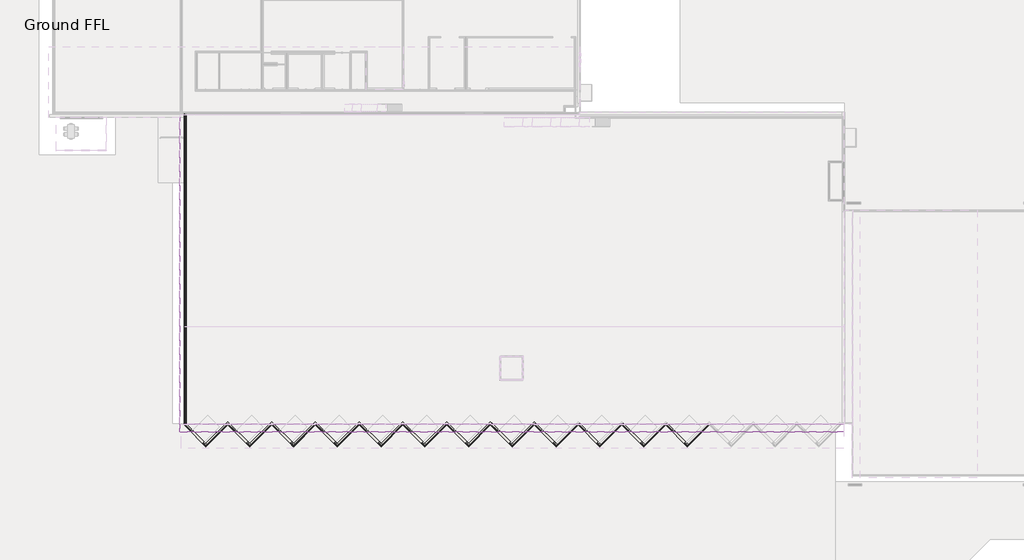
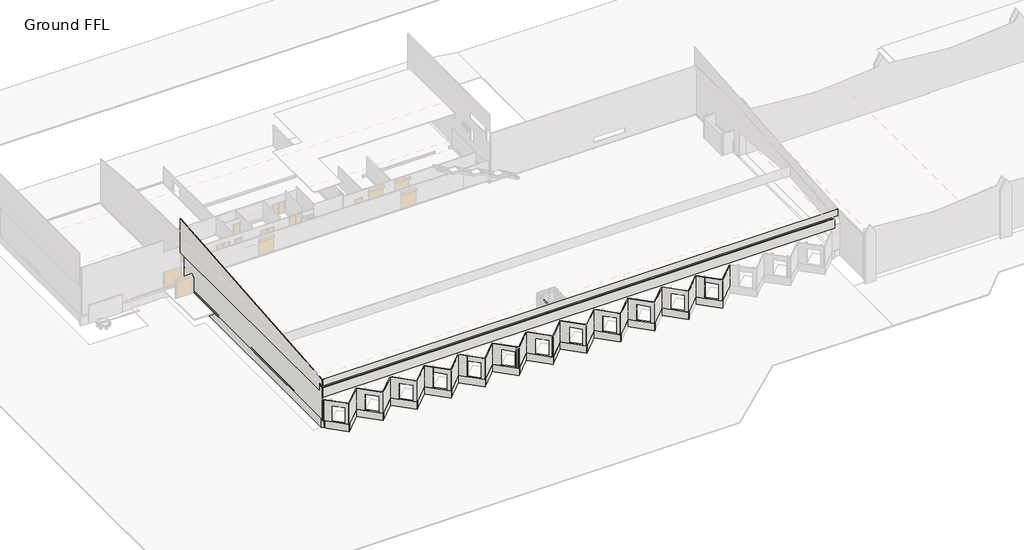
# One storey, part 1 of 7: 49 walls, 2 members.
"""IFC4 building model written with IfcOpenShell, lengths in millimetres."""

from ifc_helpers import new_model, si_unit, frame, origin, place, context, project, spatial, polyline, outline, extrude, faceted_brep, transform, mapped, element, save
from components import rectangular_mullion_50_x_150mm_477ca9b8, rectangular_mullion_50_x_150mm_662c37b1

model = new_model("IFC4")

# Units and contexts
model_context = context("Model", 3, world=origin())
ifc_project = project(units=[si_unit("LENGTHUNIT", "METRE", prefix="MILLI")], contexts=[model_context])

# Site, building, storey
site = spatial("IfcSite", under=ifc_project)
building = spatial("IfcBuilding", under=site)
storey = spatial("IfcBuildingStorey", under=building, Name="Ground FFL", Elevation=44170.0)

# Members
placement = place(None, origin())
rectangular_mullion_50_x_150mm_shape = rectangular_mullion_50_x_150mm_477ca9b8(model_context)
element("IfcMember", 1, ObjectType="Rectangular Mullion : 50 x 150mm", at=placement, inside=storey, context=model_context, shape_type="MappedRepresentation", body=[
    mapped(rectangular_mullion_50_x_150mm_shape, transform((-91700.5917799, -24471.740321, 47171.145744), x_axis=(0.0, 0.0, 1.0), y_axis=(-1.0, 0.0, 0.0), z_axis=(0.0, -1.0, 0.0))),
])
rectangular_mullion_50_x_150mm_2_shape = rectangular_mullion_50_x_150mm_662c37b1(model_context)
element("IfcMember", 2, ObjectType="Rectangular Mullion : 50 x 150mm", at=placement, inside=storey, context=model_context, shape_type="MappedRepresentation", body=[
    mapped(rectangular_mullion_50_x_150mm_2_shape, transform((-91700.5917799, -24521.740321, 44170.0), x_axis=(0.0, -1.0, 0.0), y_axis=(-1.0, 0.0, 0.0), z_axis=(0.0, 0.0, -1.0))),
])

# Walls
element("IfcWall", 3, ObjectType="Isopanel", at=placement, inside=storey, context=model_context, shape_type="Brep", body=[
    faceted_brep([(-44618.0423298, -30556.740321, 48471.3295864), (-134900.5917799, -30556.740321, 48471.3295864), (-134900.5917799, -30556.740321, 50170.0), (-134900.5917799, -30556.740321, 50250.0), (-44618.0423298, -30556.740321, 50250.0), (-44618.0423298, -30656.740321, 48471.3295864), (-44618.0423298, -30656.740321, 50250.0), (-134900.5917799, -30656.740321, 50250.0), (-134900.5917799, -30656.740321, 48471.3295864)], [[[0, 1, 2, 3, 4]], [[5, 6, 7, 8]], [[4, 3, 7, 6]], [[0, 4, 6, 5]], [[1, 0, 5, 8]], [[3, 2, 1, 8, 7]]]),
])
element("IfcWall", 4, ObjectType="300 bund wall", at=placement, inside=storey, context=model_context, shape_type="Brep", body=[
    faceted_brep([(-134600.5917799, -30573.8428022, 42670.0), (-134600.5917799, 11958.2777512, 42670.0), (-134600.5917799, 11958.2777512, 44170.0), (-134600.5917799, -30573.8428022, 44170.0), (-134900.5917799, -30273.8428022, 42670.0), (-134900.5917799, -30273.8428022, 44170.0), (-134900.5917799, 11448.2777512, 44170.0), (-134900.5917799, 11748.2777512, 44170.0), (-134900.5917799, 11958.2777512, 44170.0), (-134900.5917799, 11958.2777512, 42670.0), (-134900.5917799, 11748.2777512, 42670.0), (-134900.5917799, 11448.2777512, 42670.0)], [[[0, 1, 2, 3]], [[4, 5, 6, 7, 8, 9, 10, 11]], [[1, 0, 4, 11, 10, 9]], [[2, 1, 9, 8]], [[3, 2, 8, 7, 6, 5]], [[0, 3, 5, 4]]]),
])
element("IfcWall", 5, ObjectType="Isopanel", at=placement, inside=storey, context=model_context, shape_type="Brep", body=[
    faceted_brep([(-134800.5917799, -30556.740321, 44170.0), (-134800.5917799, 11598.2777512, 44170.0), (-134800.5917799, 11598.2777512, 53170.0), (-134800.5917799, -3676.5596296, 53170.0), (-134800.5917799, -17321.740321, 51973.9556029), (-134800.5917799, -17321.740321, 51930.0), (-134800.5917799, -17321.740321, 50170.0), (-134800.5917799, -30556.740321, 50170.0), (-134900.5917799, -30556.740321, 44170.0), (-134900.5917799, -30556.740321, 48471.3295864), (-134900.5917799, -30556.740321, 50170.0), (-134900.5917799, -17321.740321, 50170.0), (-134900.5917799, -17321.740321, 51973.9556029), (-134900.5917799, -3676.5596296, 53170.0), (-134900.5917799, 11598.2777512, 53170.0), (-134900.5917799, 11598.2777512, 44170.0)], [[[0, 1, 2, 3, 4, 5, 6, 7]], [[8, 9, 10, 11, 12, 13, 14, 15]], [[1, 0, 8, 15]], [[2, 1, 15, 14]], [[0, 7, 10, 9, 8]], [[4, 3, 13, 12]], [[3, 2, 14, 13]], [[7, 6, 11, 10]], [[6, 5, 4, 12, 11]]]),
])
element("IfcWall", 6, ObjectType="Isopanel", at=placement, inside=storey, context=model_context, shape_type="Brep", body=[
    faceted_brep([(-66085.8202918, -33674.3222716, 44170.0), (-63118.5936803, -30707.0956601, 44170.0), (-63118.5936803, -30707.0956601, 48080.3515496), (-66085.8202918, -33674.3222716, 48080.3515496), (-66156.5309699, -33603.6115935, 44170.0), (-66156.5309699, -33603.6115935, 48080.3515496), (-66085.8202918, -33532.9009153, 48080.3515496), (-63189.3043584, -30636.384982, 48080.3515496), (-63189.3043584, -30636.384982, 44170.0), (-66085.8202918, -33532.9009153, 44170.0)], [[[0, 1, 2, 3]], [[4, 5, 6, 7, 8, 9]], [[1, 0, 4, 9, 8]], [[2, 1, 8, 7]], [[3, 2, 7, 6, 5]], [[0, 3, 5, 4]]]),
])
element("IfcWall", 7, ObjectType="Isopanel", at=placement, inside=storey, context=model_context, shape_type="Brep", body=[
    faceted_brep([(-66156.5309699, -33603.6115935, 48080.3515496), (-69078.4819321, -30681.6606312, 48080.3515496), (-69149.1926103, -30610.9499531, 48080.3515496), (-69149.1926103, -30610.9499531, 44170.0), (-69078.4819321, -30681.6606312, 44170.0), (-68086.9324826, -31673.2100808, 44170.0), (-68086.9324826, -31673.2100808, 47170.0), (-66531.2975639, -33228.8449994, 47170.0), (-66531.2975639, -33228.8449994, 44170.0), (-66156.5309699, -33603.6115935, 44170.0), (-69078.4819321, -30540.239275, 48080.3515496), (-66085.8202918, -33532.9009153, 48080.3515496), (-66085.8202918, -33532.9009153, 44170.0), (-66460.5868858, -33158.1343213, 44170.0), (-66460.5868858, -33158.1343213, 47170.0), (-68016.2218044, -31602.4994027, 47170.0), (-68016.2218044, -31602.4994027, 44170.0), (-69078.4819321, -30540.239275, 44170.0)], [[[0, 1, 2, 3, 4, 5, 6, 7, 8, 9]], [[10, 11, 12, 13, 14, 15, 16, 17]], [[3, 17, 16, 5, 4]], [[12, 9, 8, 13]], [[2, 1, 0, 11, 10]], [[0, 9, 12, 11]], [[17, 3, 2, 10]], [[15, 6, 5, 16]], [[6, 15, 14, 7]], [[7, 14, 13, 8]]]),
])
element("IfcWall", 8, ObjectType="Isopanel", at=placement, inside=storey, context=model_context, shape_type="Brep", body=[
    faceted_brep([(-72071.1435725, -33674.3222716, 44170.0), (-69078.4819321, -30681.6606312, 44170.0), (-69078.4819321, -30681.6606312, 48080.3515496), (-72071.1435725, -33674.3222716, 48080.3515496), (-72141.8542506, -33603.6115935, 44170.0), (-72141.8542506, -33603.6115935, 48080.3515496), (-72071.1435725, -33532.9009153, 48080.3515496), (-69149.1926103, -30610.9499531, 48080.3515496), (-69149.1926103, -30610.9499531, 44170.0), (-72071.1435725, -33532.9009153, 44170.0)], [[[0, 1, 2, 3]], [[4, 5, 6, 7, 8, 9]], [[1, 0, 4, 9, 8]], [[3, 2, 7, 6, 5]], [[0, 3, 5, 4]], [[2, 1, 8, 7]]]),
])
element("IfcWall", 9, ObjectType="Isopanel", at=placement, inside=storey, context=model_context, shape_type="Brep", body=[
    faceted_brep([(-72141.8542506, -33603.6115935, 48080.3515496), (-75063.8052128, -30681.6606312, 48080.3515496), (-75134.5158909, -30610.9499531, 48080.3515496), (-75134.5158909, -30610.9499531, 44170.0), (-75063.8052128, -30681.6606312, 44170.0), (-74093.4689667, -31651.9968774, 44170.0), (-74093.4689667, -31651.9968774, 47170.0), (-72537.8340481, -33207.631796, 47170.0), (-72537.8340481, -33207.631796, 44170.0), (-72141.8542506, -33603.6115935, 44170.0), (-75063.8052128, -30540.239275, 48080.3515496), (-72071.1435725, -33532.9009153, 48080.3515496), (-72071.1435725, -33532.9009153, 44170.0), (-72467.1233699, -33136.9211179, 44170.0), (-72467.1233699, -33136.9211179, 47170.0), (-74022.7582886, -31581.2861993, 47170.0), (-74022.7582886, -31581.2861993, 44170.0), (-75063.8052128, -30540.239275, 44170.0)], [[[0, 1, 2, 3, 4, 5, 6, 7, 8, 9]], [[10, 11, 12, 13, 14, 15, 16, 17]], [[3, 17, 16, 5, 4]], [[12, 9, 8, 13]], [[2, 1, 0, 11, 10]], [[0, 9, 12, 11]], [[17, 3, 2, 10]], [[15, 6, 5, 16]], [[6, 15, 14, 7]], [[7, 14, 13, 8]]]),
])
element("IfcWall", 10, ObjectType="Isopanel", at=placement, inside=storey, context=model_context, shape_type="Brep", body=[
    faceted_brep([(-78056.4668532, -33674.3222716, 44170.0), (-75063.8052128, -30681.6606312, 44170.0), (-75063.8052128, -30681.6606312, 48080.3515496), (-78056.4668532, -33674.3222716, 48080.3515496), (-78127.1775313, -33603.6115935, 44170.0), (-78127.1775313, -33603.6115935, 48080.3515496), (-78056.4668532, -33532.9009153, 48080.3515496), (-75134.5158909, -30610.9499531, 48080.3515496), (-75134.5158909, -30610.9499531, 44170.0), (-78056.4668532, -33532.9009153, 44170.0)], [[[0, 1, 2, 3]], [[4, 5, 6, 7, 8, 9]], [[1, 0, 4, 9, 8]], [[3, 2, 7, 6, 5]], [[0, 3, 5, 4]], [[2, 1, 8, 7]]]),
])
element("IfcWall", 11, ObjectType="Isopanel", at=placement, inside=storey, context=model_context, shape_type="Brep", body=[
    faceted_brep([(-78127.1775313, -33603.6115935, 48080.3515496), (-81119.8391716, -30610.9499531, 48080.3515496), (-81119.8391716, -30610.9499531, 48070.0), (-81119.8391716, -30610.9499531, 44170.0), (-81049.1284935, -30681.6606312, 44170.0), (-80064.6501117, -31666.139013, 44170.0), (-80064.6501117, -31666.139013, 47170.0), (-78509.0151931, -33221.7739316, 47170.0), (-78509.0151931, -33221.7739316, 44170.0), (-78127.1775313, -33603.6115935, 44170.0), (-81049.1284935, -30540.239275, 48080.3515496), (-78056.4668532, -33532.9009153, 48080.3515496), (-78056.4668532, -33532.9009153, 44170.0), (-78438.304515, -33151.0632535, 44170.0), (-78438.304515, -33151.0632535, 47170.0), (-79993.9394336, -31595.4283349, 47170.0), (-79993.9394336, -31595.4283349, 44170.0), (-81049.1284935, -30540.239275, 44170.0)], [[[0, 1, 2, 3, 4, 5, 6, 7, 8, 9]], [[10, 11, 12, 13, 14, 15, 16, 17]], [[3, 17, 16, 5, 4]], [[12, 9, 8, 13]], [[1, 0, 11, 10]], [[0, 9, 12, 11]], [[17, 3, 2, 1, 10]], [[15, 6, 5, 16]], [[6, 15, 14, 7]], [[7, 14, 13, 8]]]),
])
element("IfcWall", 12, ObjectType="Isopanel", at=placement, inside=storey, context=model_context, shape_type="Brep", body=[
    faceted_brep([(-84041.7901338, -33674.3222716, 44170.0), (-81049.1284935, -30681.6606312, 44170.0), (-81049.1284935, -30681.6606312, 48070.0), (-84041.7901338, -33674.3222716, 48070.0), (-84112.500812, -33603.6115935, 44170.0), (-84112.500812, -33603.6115935, 48070.0), (-81119.8391716, -30610.9499531, 48070.0), (-81119.8391716, -30610.9499531, 44170.0), (-84041.7901338, -33532.9009153, 44170.0)], [[[0, 1, 2, 3]], [[4, 5, 6, 7, 8]], [[1, 0, 4, 8, 7]], [[3, 2, 6, 5]], [[0, 3, 5, 4]], [[2, 1, 7, 6]]]),
])
element("IfcWall", 13, ObjectType="Isopanel", at=placement, inside=storey, context=model_context, shape_type="Brep", body=[
    faceted_brep([(-84112.500812, -33603.6115935, 48080.3515496), (-87034.4517742, -30681.6606312, 48080.3515496), (-87105.1624523, -30610.9499531, 48080.3515496), (-87105.1624523, -30610.9499531, 44170.0), (-87034.4517742, -30681.6606312, 44170.0), (-86064.115528, -31651.9968774, 44170.0), (-86064.115528, -31651.9968774, 47170.0), (-84508.4806094, -33207.631796, 47170.0), (-84508.4806094, -33207.631796, 44170.0), (-84112.500812, -33603.6115935, 44170.0), (-84112.500812, -33603.6115935, 48070.0), (-87034.4517742, -30540.239275, 48080.3515496), (-84041.7901338, -33532.9009153, 48080.3515496), (-84041.7901338, -33532.9009153, 44170.0), (-84437.7699313, -33136.9211179, 44170.0), (-84437.7699313, -33136.9211179, 47170.0), (-85993.4048499, -31581.2861993, 47170.0), (-85993.4048499, -31581.2861993, 44170.0), (-87034.4517742, -30540.239275, 44170.0)], [[[0, 1, 2, 3, 4, 5, 6, 7, 8, 9, 10]], [[11, 12, 13, 14, 15, 16, 17, 18]], [[3, 18, 17, 5, 4]], [[13, 9, 8, 14]], [[2, 1, 0, 12, 11]], [[0, 10, 9, 13, 12]], [[18, 3, 2, 11]], [[16, 6, 5, 17]], [[6, 16, 15, 7]], [[7, 15, 14, 8]]]),
])
element("IfcWall", 14, ObjectType="Isopanel", at=placement, inside=storey, context=model_context, shape_type="Brep", body=[
    faceted_brep([(-90027.1134145, -33674.3222716, 44170.0), (-87034.4517742, -30681.6606312, 44170.0), (-87034.4517742, -30681.6606312, 48080.3515496), (-90027.1134145, -33674.3222716, 48080.3515496), (-90097.8240926, -33603.6115935, 44170.0), (-90097.8240926, -33603.6115935, 48080.3515496), (-90027.1134145, -33532.9009153, 48080.3515496), (-87105.1624523, -30610.9499531, 48080.3515496), (-87105.1624523, -30610.9499531, 44170.0), (-90027.1134145, -33532.9009153, 44170.0)], [[[0, 1, 2, 3]], [[4, 5, 6, 7, 8, 9]], [[1, 0, 4, 9, 8]], [[3, 2, 7, 6, 5]], [[0, 3, 5, 4]], [[2, 1, 8, 7]]]),
])
element("IfcWall", 15, ObjectType="Isopanel", at=placement, inside=storey, context=model_context, shape_type="Brep", body=[
    faceted_brep([(-90097.8240926, -33603.6115935, 48080.3515496), (-93019.7750549, -30681.6606312, 48080.3515496), (-93090.485733, -30610.9499531, 48080.3515496), (-93090.485733, -30610.9499531, 44170.0), (-93019.7750549, -30681.6606312, 44170.0), (-92035.2966731, -31666.139013, 44170.0), (-92035.2966731, -31666.139013, 47170.0), (-90479.6617545, -33221.7739316, 47170.0), (-90479.6617545, -33221.7739316, 44170.0), (-90097.8240926, -33603.6115935, 44170.0), (-93019.7750549, -30540.239275, 48080.3515496), (-90027.1134145, -33532.9009153, 48080.3515496), (-90027.1134145, -33532.9009153, 44170.0), (-90408.9510764, -33151.0632535, 44170.0), (-90408.9510764, -33151.0632535, 47170.0), (-91964.585995, -31595.4283349, 47170.0), (-91964.585995, -31595.4283349, 44170.0), (-93019.7750549, -30540.239275, 44170.0)], [[[0, 1, 2, 3, 4, 5, 6, 7, 8, 9]], [[10, 11, 12, 13, 14, 15, 16, 17]], [[3, 17, 16, 5, 4]], [[12, 9, 8, 13]], [[2, 1, 0, 11, 10]], [[0, 9, 12, 11]], [[17, 3, 2, 10]], [[15, 6, 5, 16]], [[6, 15, 14, 7]], [[7, 14, 13, 8]]]),
])
element("IfcWall", 16, ObjectType="Isopanel", at=placement, inside=storey, context=model_context, shape_type="Brep", body=[
    faceted_brep([(-96012.4366952, -33674.3222716, 44170.0), (-93019.7750549, -30681.6606312, 44170.0), (-93019.7750549, -30681.6606312, 48080.3515496), (-96012.4366952, -33674.3222716, 48080.3515496), (-96083.1473733, -33603.6115935, 44170.0), (-96083.1473733, -33603.6115935, 48080.3515496), (-96012.4366952, -33532.9009153, 48080.3515496), (-93090.485733, -30610.9499531, 48080.3515496), (-93090.485733, -30610.9499531, 44170.0), (-96012.4366952, -33532.9009153, 44170.0)], [[[0, 1, 2, 3]], [[4, 5, 6, 7, 8, 9]], [[1, 0, 4, 9, 8]], [[3, 2, 7, 6, 5]], [[0, 3, 5, 4]], [[2, 1, 8, 7]]]),
])
element("IfcWall", 17, ObjectType="Isopanel", at=placement, inside=storey, context=model_context, shape_type="Brep", body=[
    faceted_brep([(-96083.1473733, -33603.6115935, 48080.3515496), (-99005.0983355, -30681.6606312, 48080.3515496), (-99075.8090136, -30610.9499531, 48080.3515496), (-99075.8090136, -30610.9499531, 44170.0), (-99005.0983355, -30681.6606312, 44170.0), (-98013.5488859, -31673.2100808, 44170.0), (-98013.5488859, -31673.2100808, 47170.0), (-96457.9139673, -33228.8449994, 47170.0), (-96457.9139673, -33228.8449994, 44170.0), (-96083.1473733, -33603.6115935, 44170.0), (-99005.0983355, -30540.239275, 48080.3515496), (-96012.4366952, -33532.9009153, 48080.3515496), (-96012.4366952, -33532.9009153, 44170.0), (-96387.2032892, -33158.1343213, 44170.0), (-96387.2032892, -33158.1343213, 47170.0), (-97942.8382078, -31602.4994027, 47170.0), (-97942.8382078, -31602.4994027, 44170.0), (-99005.0983355, -30540.239275, 44170.0)], [[[0, 1, 2, 3, 4, 5, 6, 7, 8, 9]], [[10, 11, 12, 13, 14, 15, 16, 17]], [[3, 17, 16, 5, 4]], [[12, 9, 8, 13]], [[2, 1, 0, 11, 10]], [[0, 9, 12, 11]], [[17, 3, 2, 10]], [[15, 6, 5, 16]], [[6, 15, 14, 7]], [[7, 14, 13, 8]]]),
])
element("IfcWall", 18, ObjectType="Isopanel", at=placement, inside=storey, context=model_context, shape_type="Brep", body=[
    faceted_brep([(-101997.7599759, -33674.3222716, 44170.0), (-99005.0983355, -30681.6606312, 44170.0), (-99005.0983355, -30681.6606312, 48080.3515496), (-101997.7599759, -33674.3222716, 48080.3515496), (-102068.470654, -33603.6115935, 44170.0), (-102068.470654, -33603.6115935, 48080.3515496), (-101997.7599759, -33532.9009153, 48080.3515496), (-99075.8090136, -30610.9499531, 48080.3515496), (-99075.8090136, -30610.9499531, 44170.0), (-101997.7599759, -33532.9009153, 44170.0)], [[[0, 1, 2, 3]], [[4, 5, 6, 7, 8, 9]], [[1, 0, 4, 9, 8]], [[3, 2, 7, 6, 5]], [[0, 3, 5, 4]], [[2, 1, 8, 7]]]),
])
element("IfcWall", 19, ObjectType="Isopanel", at=placement, inside=storey, context=model_context, shape_type="Brep", body=[
    faceted_brep([(-102068.470654, -33603.6115935, 48080.3515496), (-104990.4216162, -30681.6606312, 48080.3515496), (-105061.1322943, -30610.9499531, 48080.3515496), (-105061.1322943, -30610.9499531, 44170.0), (-104990.4216162, -30681.6606312, 44170.0), (-104005.9432344, -31666.139013, 44170.0), (-104005.9432344, -31666.139013, 47170.0), (-102450.3083158, -33221.7739316, 47170.0), (-102450.3083158, -33221.7739316, 44170.0), (-102068.470654, -33603.6115935, 44170.0), (-104990.4216162, -30540.239275, 48080.3515496), (-101997.7599759, -33532.9009153, 48080.3515496), (-101997.7599759, -33532.9009153, 44170.0), (-102379.5976377, -33151.0632535, 44170.0), (-102379.5976377, -33151.0632535, 47170.0), (-103935.2325563, -31595.4283349, 47170.0), (-103935.2325563, -31595.4283349, 44170.0), (-104990.4216162, -30540.239275, 44170.0)], [[[0, 1, 2, 3, 4, 5, 6, 7, 8, 9]], [[10, 11, 12, 13, 14, 15, 16, 17]], [[3, 17, 16, 5, 4]], [[12, 9, 8, 13]], [[2, 1, 0, 11, 10]], [[0, 9, 12, 11]], [[17, 3, 2, 10]], [[15, 6, 5, 16]], [[6, 15, 14, 7]], [[7, 14, 13, 8]]]),
])
element("IfcWall", 20, ObjectType="Isopanel", at=placement, inside=storey, context=model_context, shape_type="Brep", body=[
    faceted_brep([(-107983.0832565, -33674.3222716, 44170.0), (-104990.4216162, -30681.6606312, 44170.0), (-104990.4216162, -30681.6606312, 48080.3515496), (-107983.0832565, -33674.3222716, 48080.3515496), (-108053.7939347, -33603.6115935, 44170.0), (-108053.7939347, -33603.6115935, 48080.3515496), (-107983.0832565, -33532.9009153, 48080.3515496), (-105061.1322943, -30610.9499531, 48080.3515496), (-105061.1322943, -30610.9499531, 44170.0), (-107983.0832565, -33532.9009153, 44170.0)], [[[0, 1, 2, 3]], [[4, 5, 6, 7, 8, 9]], [[1, 0, 4, 9, 8]], [[3, 2, 7, 6, 5]], [[0, 3, 5, 4]], [[2, 1, 8, 7]]]),
])
element("IfcWall", 21, ObjectType="Isopanel", at=placement, inside=storey, context=model_context, shape_type="Brep", body=[
    faceted_brep([(-108053.7939347, -33603.6115935, 48080.3515496), (-110975.7448969, -30681.6606312, 48080.3515496), (-111046.455575, -30610.9499531, 48080.3515496), (-111046.455575, -30610.9499531, 44170.0), (-110975.7448969, -30681.6606312, 44170.0), (-109977.1243795, -31680.2811486, 44170.0), (-109977.1243795, -31680.2811486, 47170.0), (-108421.4894609, -33235.9160672, 47170.0), (-108421.4894609, -33235.9160672, 44170.0), (-108053.7939347, -33603.6115935, 44170.0), (-110975.7448969, -30540.239275, 48080.3515496), (-107983.0832565, -33532.9009153, 48080.3515496), (-107983.0832565, -33532.9009153, 44170.0), (-108350.7787828, -33165.2053891, 44170.0), (-108350.7787828, -33165.2053891, 47170.0), (-109906.4137014, -31609.5704705, 47170.0), (-109906.4137014, -31609.5704705, 44170.0), (-110975.7448969, -30540.239275, 44170.0)], [[[0, 1, 2, 3, 4, 5, 6, 7, 8, 9]], [[10, 11, 12, 13, 14, 15, 16, 17]], [[3, 17, 16, 5, 4]], [[12, 9, 8, 13]], [[2, 1, 0, 11, 10]], [[0, 9, 12, 11]], [[17, 3, 2, 10]], [[15, 6, 5, 16]], [[6, 15, 14, 7]], [[7, 14, 13, 8]]]),
])
element("IfcWall", 22, ObjectType="Isopanel", at=placement, inside=storey, context=model_context, shape_type="Brep", body=[
    faceted_brep([(-113968.4065372, -33674.3222716, 44170.0), (-110975.7448969, -30681.6606312, 44170.0), (-110975.7448969, -30681.6606312, 48080.3515496), (-113968.4065372, -33674.3222716, 48080.3515496), (-114039.1172153, -33603.6115935, 44170.0), (-114039.1172153, -33603.6115935, 48080.3515496), (-113968.4065372, -33532.9009153, 48080.3515496), (-111046.455575, -30610.9499531, 48080.3515496), (-111046.455575, -30610.9499531, 44170.0), (-113968.4065372, -33532.9009153, 44170.0)], [[[0, 1, 2, 3]], [[4, 5, 6, 7, 8, 9]], [[1, 0, 4, 9, 8]], [[3, 2, 7, 6, 5]], [[0, 3, 5, 4]], [[2, 1, 8, 7]]]),
])
element("IfcWall", 23, ObjectType="Isopanel", at=placement, inside=storey, context=model_context, shape_type="Brep", body=[
    faceted_brep([(-114039.1172153, -33603.6115935, 48080.3515496), (-116961.0681776, -30681.6606312, 48080.3515496), (-117031.7788557, -30610.9499531, 48080.3515496), (-117031.7788557, -30610.9499531, 44170.0), (-116961.0681776, -30681.6606312, 44170.0), (-115970.0056414, -31672.7231674, 44170.0), (-115970.0056414, -31672.7231674, 47170.0), (-114414.3707228, -33228.358086, 47170.0), (-114414.3707228, -33228.358086, 44170.0), (-114039.1172153, -33603.6115935, 44170.0), (-116961.0681776, -30540.239275, 48080.3515496), (-113968.4065372, -33532.9009153, 48080.3515496), (-113968.4065372, -33532.9009153, 44170.0), (-114343.6600447, -33157.6474079, 44170.0), (-114343.6600447, -33157.6474079, 47170.0), (-115899.2949633, -31602.0124893, 47170.0), (-115899.2949633, -31602.0124893, 44170.0), (-116961.0681776, -30540.239275, 44170.0)], [[[0, 1, 2, 3, 4, 5, 6, 7, 8, 9]], [[10, 11, 12, 13, 14, 15, 16, 17]], [[3, 17, 16, 5, 4]], [[12, 9, 8, 13]], [[2, 1, 0, 11, 10]], [[0, 9, 12, 11]], [[17, 3, 2, 10]], [[15, 6, 5, 16]], [[6, 15, 14, 7]], [[7, 14, 13, 8]]]),
])
element("IfcWall", 24, ObjectType="Isopanel", at=placement, inside=storey, context=model_context, shape_type="Brep", body=[
    faceted_brep([(-119953.7298179, -33674.3222716, 44170.0), (-116961.0681776, -30681.6606312, 44170.0), (-116961.0681776, -30681.6606312, 48080.3515496), (-119953.7298179, -33674.3222716, 48080.3515496), (-120024.440496, -33603.6115935, 44170.0), (-120024.440496, -33603.6115935, 48080.3515496), (-119953.7298179, -33532.9009153, 48080.3515496), (-117031.7788557, -30610.9499531, 48080.3515496), (-117031.7788557, -30610.9499531, 44170.0), (-119953.7298179, -33532.9009153, 44170.0)], [[[0, 1, 2, 3]], [[4, 5, 6, 7, 8, 9]], [[1, 0, 4, 9, 8]], [[3, 2, 7, 6, 5]], [[0, 3, 5, 4]], [[2, 1, 8, 7]]]),
])
element("IfcWall", 25, ObjectType="Isopanel", at=placement, inside=storey, context=model_context, shape_type="Brep", body=[
    faceted_brep([(-120024.440496, -33603.6115935, 48080.3515496), (-122946.3914582, -30681.6606312, 48080.3515496), (-123017.1021364, -30610.9499531, 48080.3515496), (-123017.1021364, -30610.9499531, 44170.0), (-122946.3914582, -30681.6606312, 44170.0), (-121956.2897161, -31671.7623733, 44170.0), (-121956.2897161, -31671.7623733, 47170.0), (-120400.6547975, -33227.397292, 47170.0), (-120400.6547975, -33227.397292, 44170.0), (-120024.440496, -33603.6115935, 44170.0), (-122946.3914582, -30540.239275, 48080.3515496), (-119953.7298179, -33532.9009153, 48080.3515496), (-119953.7298179, -33532.9009153, 44170.0), (-120329.9441194, -33156.6866138, 44170.0), (-120329.9441194, -33156.6866138, 47170.0), (-121885.579038, -31601.0516952, 47170.0), (-121885.579038, -31601.0516952, 44170.0), (-122946.3914582, -30540.239275, 44170.0)], [[[0, 1, 2, 3, 4, 5, 6, 7, 8, 9]], [[10, 11, 12, 13, 14, 15, 16, 17]], [[3, 17, 16, 5, 4]], [[12, 9, 8, 13]], [[2, 1, 0, 11, 10]], [[0, 9, 12, 11]], [[17, 3, 2, 10]], [[15, 6, 5, 16]], [[6, 15, 14, 7]], [[7, 14, 13, 8]]]),
])
element("IfcWall", 26, ObjectType="Isopanel", at=placement, inside=storey, context=model_context, shape_type="Brep", body=[
    faceted_brep([(-125939.0530986, -33674.3222716, 44170.0), (-122946.3914582, -30681.6606312, 44170.0), (-122946.3914582, -30681.6606312, 48080.3515496), (-125939.0530986, -33674.3222716, 48080.3515496), (-126009.7637767, -33603.6115935, 44170.0), (-126009.7637767, -33603.6115935, 48080.3515496), (-125939.0530986, -33532.9009153, 48080.3515496), (-123017.1021364, -30610.9499531, 48080.3515496), (-123017.1021364, -30610.9499531, 44170.0), (-125939.0530986, -33532.9009153, 44170.0)], [[[0, 1, 2, 3]], [[4, 5, 6, 7, 8, 9]], [[1, 0, 4, 9, 8]], [[3, 2, 7, 6, 5]], [[0, 3, 5, 4]], [[2, 1, 8, 7]]]),
])
element("IfcWall", 27, ObjectType="Isopanel", at=placement, inside=storey, context=model_context, shape_type="Brep", body=[
    faceted_brep([(-126009.7637767, -33603.6115935, 48080.3515496), (-128931.7147389, -30681.6606312, 48080.3515496), (-129002.425417, -30610.9499531, 48080.3515496), (-129002.425417, -30610.9499531, 44170.0), (-128931.7147389, -30681.6606312, 44170.0), (-127941.6129968, -31671.7623733, 44170.0), (-127941.6129968, -31671.7623733, 47170.0), (-126385.9780782, -33227.397292, 47170.0), (-126385.9780782, -33227.397292, 44170.0), (-126009.7637767, -33603.6115935, 44170.0), (-128931.7147389, -30540.239275, 48080.3515496), (-125939.0530986, -33532.9009153, 48080.3515496), (-125939.0530986, -33532.9009153, 44170.0), (-126315.2674001, -33156.6866138, 44170.0), (-126315.2674001, -33156.6866138, 47170.0), (-127870.9023187, -31601.0516952, 47170.0), (-127870.9023187, -31601.0516952, 44170.0), (-128931.7147389, -30540.239275, 44170.0)], [[[0, 1, 2, 3, 4, 5, 6, 7, 8, 9]], [[10, 11, 12, 13, 14, 15, 16, 17]], [[3, 17, 16, 5, 4]], [[12, 9, 8, 13]], [[2, 1, 0, 11, 10]], [[0, 9, 12, 11]], [[15, 6, 5, 16]], [[6, 15, 14, 7]], [[7, 14, 13, 8]], [[17, 3, 2, 10]]]),
])
element("IfcWall", 28, ObjectType="Isopanel", at=placement, inside=storey, context=model_context, shape_type="Brep", body=[
    faceted_brep([(-131924.3763793, -33674.3222716, 44170.0), (-128931.7147389, -30681.6606312, 44170.0), (-128931.7147389, -30681.6606312, 48080.3515496), (-131924.3763793, -33674.3222716, 48080.3515496), (-131995.0870574, -33603.6115935, 44170.0), (-131995.0870574, -33603.6115935, 48070.0), (-131995.0870574, -33603.6115935, 48080.3515496), (-129002.425417, -30610.9499531, 48080.3515496), (-129002.425417, -30610.9499531, 44170.0), (-131924.3763793, -33532.9009153, 44170.0)], [[[0, 1, 2, 3]], [[4, 5, 6, 7, 8, 9]], [[1, 0, 4, 9, 8]], [[3, 2, 7, 6]], [[0, 3, 6, 5, 4]], [[2, 1, 8, 7]]]),
])
element("IfcWall", 29, ObjectType="Isopanel", at=placement, inside=storey, context=model_context, shape_type="Brep", body=[
    faceted_brep([(-131995.0870574, -33603.6115935, 48070.0), (-134800.5917799, -30798.1068709, 48070.0), (-134800.5917799, -30798.1068709, 44170.0), (-133926.9362775, -31671.7623733, 44170.0), (-133926.9362775, -31671.7623733, 47170.0), (-132371.3013589, -33227.397292, 47170.0), (-132371.3013589, -33227.397292, 44170.0), (-131995.0870574, -33603.6115935, 44170.0), (-134800.5917799, -30656.6855147, 48070.0), (-131924.3763793, -33532.9009153, 48070.0), (-131924.3763793, -33532.9009153, 44170.0), (-132300.5906808, -33156.6866138, 44170.0), (-132300.5906808, -33156.6866138, 47170.0), (-133856.2255994, -31601.0516952, 47170.0), (-133856.2255994, -31601.0516952, 44170.0), (-134800.5917799, -30656.6855147, 44170.0)], [[[0, 1, 2, 3, 4, 5, 6, 7]], [[8, 9, 10, 11, 12, 13, 14, 15]], [[10, 7, 6, 11]], [[2, 15, 14, 3]], [[1, 0, 9, 8]], [[0, 7, 10, 9]], [[13, 4, 3, 14]], [[4, 13, 12, 5]], [[5, 12, 11, 6]], [[2, 1, 8, 15]]]),
])
element("IfcWall", 30, ObjectType="300 bund wall", at=placement, inside=storey, context=model_context, shape_type="Brep", body=[
    faceted_brep([(-134600.5917799, -30573.8428022, 44170.0), (-131924.3763793, -33250.0582029, 44170.0), (-131712.2443449, -33462.1902372, 44170.0), (-131712.2443449, -33462.1902372, 42670.0), (-131924.3763793, -33250.0582029, 42670.0), (-134600.5917799, -30573.8428022, 42670.0), (-134600.5917799, -30998.1068709, 44170.0), (-134600.5917799, -30998.1068709, 42670.0), (-131924.3763793, -33674.3222716, 42670.0), (-131924.3763793, -33674.3222716, 44170.0)], [[[0, 1, 2, 3, 4, 5]], [[6, 7, 8, 9]], [[2, 1, 0, 6, 9]], [[5, 4, 3, 8, 7]], [[3, 2, 9, 8]], [[0, 5, 7, 6]]]),
])
element("IfcWall", 31, ObjectType="300 bund wall", at=placement, inside=storey, context=model_context, shape_type="Brep", body=[
    faceted_brep([(-128719.5827046, -30469.5285969, 44170.0), (-128931.7147389, -30681.6606312, 44170.0), (-131712.2443449, -33462.1902372, 44170.0), (-131712.2443449, -33462.1902372, 42670.0), (-128931.7147389, -30681.6606312, 42670.0), (-128719.5827046, -30469.5285969, 42670.0), (-131924.3763793, -33250.0582029, 44170.0), (-128931.7147389, -30257.3965625, 44170.0), (-128931.7147389, -30257.3965625, 42670.0), (-131924.3763793, -33250.0582029, 42670.0)], [[[0, 1, 2, 3, 4, 5]], [[6, 7, 8, 9]], [[2, 1, 0, 7, 6]], [[5, 4, 3, 9, 8]], [[3, 2, 6, 9]], [[0, 5, 8, 7]]]),
])
element("IfcWall", 32, ObjectType="300 bund wall", at=placement, inside=storey, context=model_context, shape_type="Brep", body=[
    faceted_brep([(-128719.5827046, -30469.5285969, 44170.0), (-125939.0530986, -33250.0582029, 44170.0), (-125726.9210642, -33462.1902372, 44170.0), (-125726.9210642, -33462.1902372, 42670.0), (-125939.0530986, -33250.0582029, 42670.0), (-128719.5827046, -30469.5285969, 42670.0), (-128931.7147389, -30681.6606312, 44170.0), (-128931.7147389, -30681.6606312, 42670.0), (-125939.0530986, -33674.3222716, 42670.0), (-125939.0530986, -33674.3222716, 44170.0)], [[[0, 1, 2, 3, 4, 5]], [[6, 7, 8, 9]], [[2, 1, 0, 6, 9]], [[5, 4, 3, 8, 7]], [[3, 2, 9, 8]], [[0, 5, 7, 6]]]),
])
element("IfcWall", 33, ObjectType="300 bund wall", at=placement, inside=storey, context=model_context, shape_type="Brep", body=[
    faceted_brep([(-122734.2594239, -30469.5285969, 44170.0), (-122946.3914582, -30681.6606312, 44170.0), (-125726.9210642, -33462.1902372, 44170.0), (-125726.9210642, -33462.1902372, 42670.0), (-122946.3914582, -30681.6606312, 42670.0), (-122734.2594239, -30469.5285969, 42670.0), (-125939.0530986, -33250.0582029, 44170.0), (-122946.3914582, -30257.3965625, 44170.0), (-122946.3914582, -30257.3965625, 42670.0), (-125939.0530986, -33250.0582029, 42670.0)], [[[0, 1, 2, 3, 4, 5]], [[6, 7, 8, 9]], [[2, 1, 0, 7, 6]], [[5, 4, 3, 9, 8]], [[3, 2, 6, 9]], [[0, 5, 8, 7]]]),
])
element("IfcWall", 34, ObjectType="300 bund wall", at=placement, inside=storey, context=model_context, shape_type="Brep", body=[
    faceted_brep([(-122734.2594239, -30469.5285969, 44170.0), (-119953.7298179, -33250.0582029, 44170.0), (-119741.5977835, -33462.1902372, 44170.0), (-119741.5977835, -33462.1902372, 42670.0), (-119953.7298179, -33250.0582029, 42670.0), (-122734.2594239, -30469.5285969, 42670.0), (-122946.3914582, -30681.6606312, 44170.0), (-122946.3914582, -30681.6606312, 42670.0), (-119953.7298179, -33674.3222716, 42670.0), (-119953.7298179, -33674.3222716, 44170.0)], [[[0, 1, 2, 3, 4, 5]], [[6, 7, 8, 9]], [[2, 1, 0, 6, 9]], [[5, 4, 3, 8, 7]], [[3, 2, 9, 8]], [[0, 5, 7, 6]]]),
])
element("IfcWall", 35, ObjectType="300 bund wall", at=placement, inside=storey, context=model_context, shape_type="Brep", body=[
    faceted_brep([(-116748.9361432, -30469.5285969, 44170.0), (-116961.0681776, -30681.6606312, 44170.0), (-119741.5977835, -33462.1902372, 44170.0), (-119741.5977835, -33462.1902372, 42670.0), (-116961.0681776, -30681.6606312, 42670.0), (-116748.9361432, -30469.5285969, 42670.0), (-119953.7298179, -33250.0582029, 44170.0), (-116961.0681776, -30257.3965625, 44170.0), (-116961.0681776, -30257.3965625, 42670.0), (-119953.7298179, -33250.0582029, 42670.0)], [[[0, 1, 2, 3, 4, 5]], [[6, 7, 8, 9]], [[2, 1, 0, 7, 6]], [[5, 4, 3, 9, 8]], [[3, 2, 6, 9]], [[0, 5, 8, 7]]]),
])
element("IfcWall", 36, ObjectType="300 bund wall", at=placement, inside=storey, context=model_context, shape_type="Brep", body=[
    faceted_brep([(-116748.9361432, -30469.5285969, 44170.0), (-113968.4065372, -33250.0582029, 44170.0), (-113756.2745029, -33462.1902372, 44170.0), (-113756.2745029, -33462.1902372, 42670.0), (-113968.4065372, -33250.0582029, 42670.0), (-116748.9361432, -30469.5285969, 42670.0), (-116961.0681776, -30681.6606312, 44170.0), (-116961.0681776, -30681.6606312, 42670.0), (-113968.4065372, -33674.3222716, 42670.0), (-113968.4065372, -33674.3222716, 44170.0)], [[[0, 1, 2, 3, 4, 5]], [[6, 7, 8, 9]], [[2, 1, 0, 6, 9]], [[5, 4, 3, 8, 7]], [[3, 2, 9, 8]], [[0, 5, 7, 6]]]),
])
element("IfcWall", 37, ObjectType="300 bund wall", at=placement, inside=storey, context=model_context, shape_type="Brep", body=[
    faceted_brep([(-110763.6128625, -30469.5285969, 44170.0), (-110975.7448969, -30681.6606312, 44170.0), (-113756.2745029, -33462.1902372, 44170.0), (-113756.2745029, -33462.1902372, 42670.0), (-110975.7448969, -30681.6606312, 42670.0), (-110763.6128625, -30469.5285969, 42670.0), (-113968.4065372, -33250.0582029, 44170.0), (-110975.7448969, -30257.3965625, 44170.0), (-110975.7448969, -30257.3965625, 42670.0), (-113968.4065372, -33250.0582029, 42670.0)], [[[0, 1, 2, 3, 4, 5]], [[6, 7, 8, 9]], [[2, 1, 0, 7, 6]], [[5, 4, 3, 9, 8]], [[3, 2, 6, 9]], [[0, 5, 8, 7]]]),
])
element("IfcWall", 38, ObjectType="300 bund wall", at=placement, inside=storey, context=model_context, shape_type="Brep", body=[
    faceted_brep([(-110763.6128625, -30469.5285969, 44170.0), (-107983.0832565, -33250.0582029, 44170.0), (-107770.9512222, -33462.1902372, 44170.0), (-107770.9512222, -33462.1902372, 42670.0), (-107983.0832565, -33250.0582029, 42670.0), (-110763.6128625, -30469.5285969, 42670.0), (-110975.7448969, -30681.6606312, 44170.0), (-110975.7448969, -30681.6606312, 42670.0), (-107983.0832565, -33674.3222716, 42670.0), (-107983.0832565, -33674.3222716, 44170.0)], [[[0, 1, 2, 3, 4, 5]], [[6, 7, 8, 9]], [[2, 1, 0, 6, 9]], [[5, 4, 3, 8, 7]], [[3, 2, 9, 8]], [[0, 5, 7, 6]]]),
])
element("IfcWall", 39, ObjectType="300 bund wall", at=placement, inside=storey, context=model_context, shape_type="Brep", body=[
    faceted_brep([(-104778.2895819, -30469.5285969, 44170.0), (-104990.4216162, -30681.6606312, 44170.0), (-107770.9512222, -33462.1902372, 44170.0), (-107770.9512222, -33462.1902372, 42670.0), (-104990.4216162, -30681.6606312, 42670.0), (-104778.2895819, -30469.5285969, 42670.0), (-107983.0832565, -33250.0582029, 44170.0), (-104990.4216162, -30257.3965625, 44170.0), (-104990.4216162, -30257.3965625, 42670.0), (-107983.0832565, -33250.0582029, 42670.0)], [[[0, 1, 2, 3, 4, 5]], [[6, 7, 8, 9]], [[2, 1, 0, 7, 6]], [[5, 4, 3, 9, 8]], [[3, 2, 6, 9]], [[0, 5, 8, 7]]]),
])
element("IfcWall", 40, ObjectType="300 bund wall", at=placement, inside=storey, context=model_context, shape_type="Brep", body=[
    faceted_brep([(-104778.2895819, -30469.5285969, 44170.0), (-101997.7599759, -33250.0582029, 44170.0), (-101785.6279415, -33462.1902372, 44170.0), (-101785.6279415, -33462.1902372, 42670.0), (-101997.7599759, -33250.0582029, 42670.0), (-104778.2895819, -30469.5285969, 42670.0), (-104990.4216162, -30681.6606312, 44170.0), (-104990.4216162, -30681.6606312, 42670.0), (-101997.7599759, -33674.3222716, 42670.0), (-101997.7599759, -33674.3222716, 44170.0)], [[[0, 1, 2, 3, 4, 5]], [[6, 7, 8, 9]], [[2, 1, 0, 6, 9]], [[5, 4, 3, 8, 7]], [[3, 2, 9, 8]], [[0, 5, 7, 6]]]),
])
element("IfcWall", 41, ObjectType="300 bund wall", at=placement, inside=storey, context=model_context, shape_type="Brep", body=[
    faceted_brep([(-98792.9663012, -30469.5285969, 44170.0), (-99005.0983355, -30681.6606312, 44170.0), (-101785.6279415, -33462.1902372, 44170.0), (-101785.6279415, -33462.1902372, 42670.0), (-99005.0983355, -30681.6606312, 42670.0), (-98792.9663012, -30469.5285969, 42670.0), (-101997.7599759, -33250.0582029, 44170.0), (-99005.0983355, -30257.3965625, 44170.0), (-99005.0983355, -30257.3965625, 42670.0), (-101997.7599759, -33250.0582029, 42670.0)], [[[0, 1, 2, 3, 4, 5]], [[6, 7, 8, 9]], [[2, 1, 0, 7, 6]], [[5, 4, 3, 9, 8]], [[3, 2, 6, 9]], [[0, 5, 8, 7]]]),
])
element("IfcWall", 42, ObjectType="300 bund wall", at=placement, inside=storey, context=model_context, shape_type="Brep", body=[
    faceted_brep([(-98792.9663012, -30469.5285969, 44170.0), (-96012.4366952, -33250.0582029, 44170.0), (-95800.3046608, -33462.1902372, 44170.0), (-95800.3046608, -33462.1902372, 42670.0), (-96012.4366952, -33250.0582029, 42670.0), (-98792.9663012, -30469.5285969, 42670.0), (-99005.0983355, -30681.6606312, 44170.0), (-99005.0983355, -30681.6606312, 42670.0), (-96012.4366952, -33674.3222716, 42670.0), (-96012.4366952, -33674.3222716, 44170.0)], [[[0, 1, 2, 3, 4, 5]], [[6, 7, 8, 9]], [[2, 1, 0, 6, 9]], [[5, 4, 3, 8, 7]], [[3, 2, 9, 8]], [[0, 5, 7, 6]]]),
])
element("IfcWall", 43, ObjectType="300 bund wall", at=placement, inside=storey, context=model_context, shape_type="Brep", body=[
    faceted_brep([(-92807.6430205, -30469.5285969, 44170.0), (-93019.7750549, -30681.6606312, 44170.0), (-95800.3046608, -33462.1902372, 44170.0), (-95800.3046608, -33462.1902372, 42670.0), (-93019.7750549, -30681.6606312, 42670.0), (-92807.6430205, -30469.5285969, 42670.0), (-96012.4366952, -33250.0582029, 44170.0), (-93019.7750549, -30257.3965625, 44170.0), (-93019.7750549, -30257.3965625, 42670.0), (-96012.4366952, -33250.0582029, 42670.0)], [[[0, 1, 2, 3, 4, 5]], [[6, 7, 8, 9]], [[2, 1, 0, 7, 6]], [[5, 4, 3, 9, 8]], [[3, 2, 6, 9]], [[0, 5, 8, 7]]]),
])
element("IfcWall", 44, ObjectType="300 bund wall", at=placement, inside=storey, context=model_context, shape_type="Brep", body=[
    faceted_brep([(-92807.6430205, -30469.5285969, 44170.0), (-90027.1134145, -33250.0582029, 44170.0), (-89814.9813802, -33462.1902372, 44170.0), (-89814.9813802, -33462.1902372, 42670.0), (-90027.1134145, -33250.0582029, 42670.0), (-92807.6430205, -30469.5285969, 42670.0), (-93019.7750549, -30681.6606312, 44170.0), (-93019.7750549, -30681.6606312, 42670.0), (-90027.1134145, -33674.3222716, 42670.0), (-90027.1134145, -33674.3222716, 44170.0)], [[[0, 1, 2, 3, 4, 5]], [[6, 7, 8, 9]], [[2, 1, 0, 6, 9]], [[5, 4, 3, 8, 7]], [[3, 2, 9, 8]], [[0, 5, 7, 6]]]),
])
element("IfcWall", 45, ObjectType="300 bund wall", at=placement, inside=storey, context=model_context, shape_type="Brep", body=[
    faceted_brep([(-86822.3197398, -30469.5285969, 44170.0), (-87034.4517742, -30681.6606312, 44170.0), (-89814.9813802, -33462.1902372, 44170.0), (-89814.9813802, -33462.1902372, 42670.0), (-87034.4517742, -30681.6606312, 42670.0), (-86822.3197398, -30469.5285969, 42670.0), (-90027.1134145, -33250.0582029, 44170.0), (-87034.4517742, -30257.3965625, 44170.0), (-87034.4517742, -30257.3965625, 42670.0), (-90027.1134145, -33250.0582029, 42670.0)], [[[0, 1, 2, 3, 4, 5]], [[6, 7, 8, 9]], [[2, 1, 0, 7, 6]], [[5, 4, 3, 9, 8]], [[3, 2, 6, 9]], [[0, 5, 8, 7]]]),
])
element("IfcWall", 46, ObjectType="300 bund wall", at=placement, inside=storey, context=model_context, shape_type="Brep", body=[
    faceted_brep([(-86822.3197398, -30469.5285969, 44170.0), (-84041.7901338, -33250.0582029, 44170.0), (-83829.6580995, -33462.1902372, 44170.0), (-83829.6580995, -33462.1902372, 42670.0), (-84041.7901338, -33250.0582029, 42670.0), (-86822.3197398, -30469.5285969, 42670.0), (-87034.4517742, -30681.6606312, 44170.0), (-87034.4517742, -30681.6606312, 42670.0), (-84041.7901338, -33674.3222716, 42670.0), (-84041.7901338, -33674.3222716, 44170.0)], [[[0, 1, 2, 3, 4, 5]], [[6, 7, 8, 9]], [[2, 1, 0, 6, 9]], [[5, 4, 3, 8, 7]], [[3, 2, 9, 8]], [[0, 5, 7, 6]]]),
])
element("IfcWall", 47, ObjectType="300 bund wall", at=placement, inside=storey, context=model_context, shape_type="Brep", body=[
    faceted_brep([(-80836.9964591, -30469.5285969, 44170.0), (-78056.4668532, -33250.0582029, 44170.0), (-77844.3348188, -33462.1902372, 44170.0), (-77844.3348188, -33462.1902372, 42670.0), (-78056.4668532, -33250.0582029, 42670.0), (-80836.9964591, -30469.5285969, 42670.0), (-81049.1284935, -30681.6606312, 44170.0), (-81049.1284935, -30681.6606312, 42670.0), (-78056.4668532, -33674.3222716, 42670.0), (-78056.4668532, -33674.3222716, 44170.0)], [[[0, 1, 2, 3, 4, 5]], [[6, 7, 8, 9]], [[2, 1, 0, 6, 9]], [[5, 4, 3, 8, 7]], [[3, 2, 9, 8]], [[0, 5, 7, 6]]]),
])
element("IfcWall", 48, ObjectType="300 bund wall", at=placement, inside=storey, context=model_context, shape_type="Brep", body=[
    faceted_brep([(-74851.6731785, -30469.5285969, 44170.0), (-72071.1435725, -33250.0582029, 44170.0), (-71859.0115381, -33462.1902372, 44170.0), (-71859.0115381, -33462.1902372, 42670.0), (-72071.1435725, -33250.0582029, 42670.0), (-74851.6731785, -30469.5285969, 42670.0), (-75063.8052128, -30681.6606312, 44170.0), (-75063.8052128, -30681.6606312, 42670.0), (-72071.1435725, -33674.3222716, 42670.0), (-72071.1435725, -33674.3222716, 44170.0)], [[[0, 1, 2, 3, 4, 5]], [[6, 7, 8, 9]], [[2, 1, 0, 6, 9]], [[5, 4, 3, 8, 7]], [[3, 2, 9, 8]], [[0, 5, 7, 6]]]),
])
element("IfcWall", 49, ObjectType="300 bund wall", at=placement, inside=storey, context=model_context, shape_type="Brep", body=[
    faceted_brep([(-68866.3498978, -30469.5285969, 44170.0), (-66085.8202918, -33250.0582029, 44170.0), (-65873.6882574, -33462.1902372, 44170.0), (-65873.6882574, -33462.1902372, 42670.0), (-66085.8202918, -33250.0582029, 42670.0), (-68866.3498978, -30469.5285969, 42670.0), (-69078.4819321, -30681.6606312, 44170.0), (-69078.4819321, -30681.6606312, 42670.0), (-66085.8202918, -33674.3222716, 42670.0), (-66085.8202918, -33674.3222716, 44170.0)], [[[0, 1, 2, 3, 4, 5]], [[6, 7, 8, 9]], [[2, 1, 0, 6, 9]], [[5, 4, 3, 8, 7]], [[3, 2, 9, 8]], [[0, 5, 7, 6]]]),
])
element("IfcWall", 50, ObjectType="Cladding 3", at=placement, inside=storey, context=model_context, shape_type="SweptSolid", body=[
    extrude(outline(polyline([(-31661.740321, 51470.0), (-31661.740321, 52578.9029292), (11677.6738606, 56370.6103539), (11677.6738606, 50070.0), (-30656.740321, 50070.0), (-30656.740321, 51470.0), (-31661.740321, 51470.0)])), frame((-135538.5917799, 0.0, 0.0), z_axis=(1.0, 0.0, 0.0), x_axis=(0.0, 1.0, 0.0)), (0.0, 0.0, 1.0), 38.0),
])
element("IfcWall", 51, ObjectType="Cladding 3", at=placement, inside=storey, context=model_context, shape_type="SweptSolid", body=[
    extrude(outline(polyline([(-135450.5917799, -31621.6282685), (-44618.0423298, -31621.6282685), (-44618.0423298, -31659.6282685), (-135450.5917799, -31659.6282685), (-135450.5917799, -31621.6282685)])), frame((0.0, 0.0, 51420.0), z_axis=(0.0, 0.0, 1.0), x_axis=(1.0, 0.0, 0.0)), (0.0, 0.0, 1.0), 1158.9029292),
])

save(model, "model.ifc")
